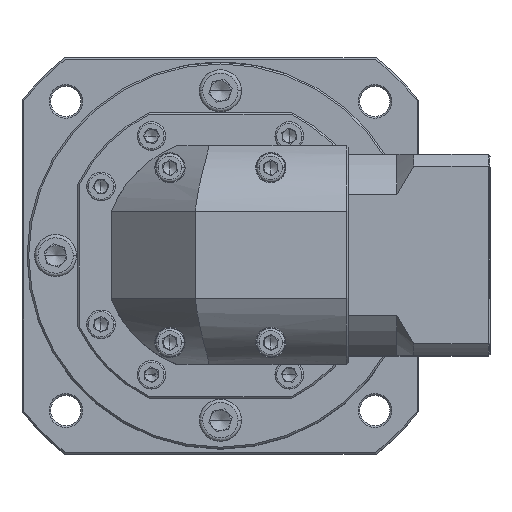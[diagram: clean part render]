
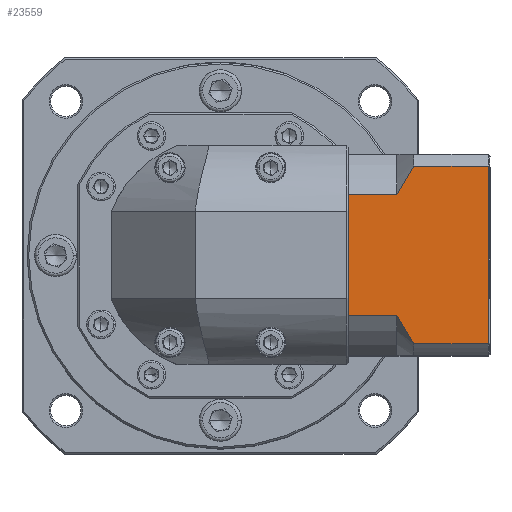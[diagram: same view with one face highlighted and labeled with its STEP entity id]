
A CAD part, top view. The second image highlights one B-rep face of the part: STEP entity #23559.
In plain terms, the highlighted planar face has unit normal (0, 0, 1).
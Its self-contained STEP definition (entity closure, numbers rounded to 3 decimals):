
#1951 = ORIENTED_EDGE ( 'NONE', *, *, #26080, .F. ) ;
#2946 = VERTEX_POINT ( 'NONE', #12685 ) ;
#4112 = CARTESIAN_POINT ( 'NONE',  ( 142.057, 93.206, 2.916 ) ) ;
#6476 = CARTESIAN_POINT ( 'NONE',  ( 140.38, 48.577, 2.916 ) ) ;
#7361 = VECTOR ( 'NONE', #66234, 1000. ) ;
#8789 = VECTOR ( 'NONE', #29412, 1000. ) ;
#9143 = LINE ( 'NONE', #128809, #140426 ) ;
#9224 = EDGE_CURVE ( 'NONE', #37798, #59841, #22589, .T. ) ;
#11631 = DIRECTION ( 'NONE',  ( 0., -1., 0. ) ) ;
#12685 = CARTESIAN_POINT ( 'NONE',  ( 124.33, 86.524, 2.916 ) ) ;
#13821 = ORIENTED_EDGE ( 'NONE', *, *, #127422, .F. ) ;
#13902 = DIRECTION ( 'NONE',  ( 0., -1., 0. ) ) ;
#14362 = CARTESIAN_POINT ( 'NONE',  ( 138.83, 51.459, 2.916 ) ) ;
#15166 = CARTESIAN_POINT ( 'NONE',  ( 124.33, 87.515, 2.916 ) ) ;
#15233 = ORIENTED_EDGE ( 'NONE', *, *, #9224, .F. ) ;
#15829 = PLANE ( 'NONE',  #117697 ) ;
#16374 = CARTESIAN_POINT ( 'NONE',  ( 139.578, 88.967, 2.916 ) ) ;
#18329 = DIRECTION ( 'NONE',  ( 0., -1., 0. ) ) ;
#19769 = CARTESIAN_POINT ( 'NONE',  ( 143.83, 43.03, 2.916 ) ) ;
#22589 = LINE ( 'NONE', #82034, #115838 ) ;
#22724 = ORIENTED_EDGE ( 'NONE', *, *, #131960, .T. ) ;
#23372 = CARTESIAN_POINT ( 'NONE',  ( 124.33, 99.487, 2.916 ) ) ;
#23559 = ADVANCED_FACE ( 'NONE', ( #26348 ), #15829, .F. ) ;
#26080 = EDGE_CURVE ( 'NONE', #61155, #151327, #105033, .T. ) ;
#26348 = FACE_OUTER_BOUND ( 'NONE', #97242, .T. ) ;
#27134 = CARTESIAN_POINT ( 'NONE',  ( 143.83, 43.03, 2.916 ) ) ;
#28014 = EDGE_CURVE ( 'NONE', #47635, #2946, #43043, .T. ) ;
#29174 = CARTESIAN_POINT ( 'NONE',  ( 143.83, 95.945, 2.916 ) ) ;
#29412 = DIRECTION ( 'NONE',  ( 0., 1., 0. ) ) ;
#30552 = CARTESIAN_POINT ( 'NONE',  ( 138.83, 95.945, 2.916 ) ) ;
#31466 = EDGE_CURVE ( 'NONE', #94371, #118616, #140329, .T. ) ;
#37520 = ORIENTED_EDGE ( 'NONE', *, *, #113502, .T. ) ;
#37798 = VERTEX_POINT ( 'NONE', #14362 ) ;
#43043 = LINE ( 'NONE', #123419, #54308 ) ;
#44085 = CARTESIAN_POINT ( 'NONE',  ( 124.33, 52.45, 2.916 ) ) ;
#44977 = LINE ( 'NONE', #138370, #8789 ) ;
#47635 = VERTEX_POINT ( 'NONE', #15166 ) ;
#52103 = CARTESIAN_POINT ( 'NONE',  ( 166.53, 99.487, 2.916 ) ) ;
#52806 = LINE ( 'NONE', #23372, #157540 ) ;
#54308 = VECTOR ( 'NONE', #13902, 1000. ) ;
#54976 = CARTESIAN_POINT ( 'NONE',  ( 139.58, 50.003, 2.916 ) ) ;
#55205 = CARTESIAN_POINT ( 'NONE',  ( 143.83, 95.945, 2.916 ) ) ;
#56281 = DIRECTION ( 'NONE',  ( -1., 0., 0. ) ) ;
#57295 = CARTESIAN_POINT ( 'NONE',  ( 138.83, 43.03, 2.916 ) ) ;
#59841 = VERTEX_POINT ( 'NONE', #124122 ) ;
#61155 = VERTEX_POINT ( 'NONE', #147456 ) ;
#61324 = B_SPLINE_CURVE_WITH_KNOTS ( 'NONE', 3,
 ( #153277, #54976, #6476, #80458, #67156, #19769 ),
 .UNSPECIFIED., .F., .F.,
 ( 4, 2, 4 ),
 ( 0.1, 0.104, 0.109 ),
 .UNSPECIFIED. ) ;
#66234 = DIRECTION ( 'NONE',  ( 1., 0., 0. ) ) ;
#66235 = LINE ( 'NONE', #96919, #104125 ) ;
#67156 = CARTESIAN_POINT ( 'NONE',  ( 142.928, 44.392, 2.916 ) ) ;
#69745 = DIRECTION ( 'NONE',  ( -1., 0., 0. ) ) ;
#73471 = ORIENTED_EDGE ( 'NONE', *, *, #81165, .T. ) ;
#80233 = DIRECTION ( 'NONE',  ( 0., 0., -1. ) ) ;
#80458 = CARTESIAN_POINT ( 'NONE',  ( 142.054, 45.772, 2.916 ) ) ;
#81165 = EDGE_CURVE ( 'NONE', #61155, #139669, #44977, .T. ) ;
#82034 = CARTESIAN_POINT ( 'NONE',  ( 138.83, 51.459, 2.916 ) ) ;
#82584 = VERTEX_POINT ( 'NONE', #44085 ) ;
#94371 = VERTEX_POINT ( 'NONE', #55205 ) ;
#96919 = CARTESIAN_POINT ( 'NONE',  ( 138.83, 87.515, 2.916 ) ) ;
#97242 = EDGE_LOOP ( 'NONE', ( #1951, #73471, #13821, #142737, #113312, #156697, #108492, #37520, #15233, #22724 ) ) ;
#104125 = VECTOR ( 'NONE', #121373, 1000. ) ;
#105033 = LINE ( 'NONE', #57295, #152738 ) ;
#107013 = CARTESIAN_POINT ( 'NONE',  ( 166.03, 95.945, 2.916 ) ) ;
#108492 = ORIENTED_EDGE ( 'NONE', *, *, #143220, .T. ) ;
#110772 = EDGE_CURVE ( 'NONE', #47635, #118616, #66235, .T. ) ;
#112061 = LINE ( 'NONE', #30552, #7361 ) ;
#113312 = ORIENTED_EDGE ( 'NONE', *, *, #110772, .F. ) ;
#113502 = EDGE_CURVE ( 'NONE', #82584, #59841, #9143, .T. ) ;
#114190 = CARTESIAN_POINT ( 'NONE',  ( 140.381, 90.398, 2.916 ) ) ;
#115838 = VECTOR ( 'NONE', #69745, 1000. ) ;
#117697 = AXIS2_PLACEMENT_3D ( 'NONE', #52103, #80233, #128529 ) ;
#118616 = VERTEX_POINT ( 'NONE', #148898 ) ;
#121373 = DIRECTION ( 'NONE',  ( 1., 0., 0. ) ) ;
#123419 = CARTESIAN_POINT ( 'NONE',  ( 124.33, 99.487, 2.916 ) ) ;
#124122 = CARTESIAN_POINT ( 'NONE',  ( 124.33, 51.459, 2.916 ) ) ;
#127422 = EDGE_CURVE ( 'NONE', #94371, #139669, #112061, .T. ) ;
#128529 = DIRECTION ( 'NONE',  ( 1., 0., 0. ) ) ;
#128809 = CARTESIAN_POINT ( 'NONE',  ( 124.33, 99.487, 2.916 ) ) ;
#131960 = EDGE_CURVE ( 'NONE', #37798, #151327, #61324, .T. ) ;
#138370 = CARTESIAN_POINT ( 'NONE',  ( 166.03, 99.487, 2.916 ) ) ;
#139669 = VERTEX_POINT ( 'NONE', #107013 ) ;
#140329 = B_SPLINE_CURVE_WITH_KNOTS ( 'NONE', 3,
 ( #29174, #149863, #4112, #114190, #16374, #149353 ),
 .UNSPECIFIED., .F., .F.,
 ( 4, 2, 4 ),
 ( 0.052, 0.057, 0.062 ),
 .UNSPECIFIED. ) ;
#140426 = VECTOR ( 'NONE', #18329, 1000. ) ;
#142737 = ORIENTED_EDGE ( 'NONE', *, *, #31466, .T. ) ;
#143220 = EDGE_CURVE ( 'NONE', #2946, #82584, #52806, .T. ) ;
#147456 = CARTESIAN_POINT ( 'NONE',  ( 166.03, 43.03, 2.916 ) ) ;
#148898 = CARTESIAN_POINT ( 'NONE',  ( 138.83, 87.515, 2.916 ) ) ;
#149353 = CARTESIAN_POINT ( 'NONE',  ( 138.83, 87.515, 2.916 ) ) ;
#149863 = CARTESIAN_POINT ( 'NONE',  ( 142.93, 94.585, 2.916 ) ) ;
#151327 = VERTEX_POINT ( 'NONE', #27134 ) ;
#152738 = VECTOR ( 'NONE', #56281, 1000. ) ;
#153277 = CARTESIAN_POINT ( 'NONE',  ( 138.83, 51.459, 2.916 ) ) ;
#156697 = ORIENTED_EDGE ( 'NONE', *, *, #28014, .T. ) ;
#157540 = VECTOR ( 'NONE', #11631, 1000. ) ;
